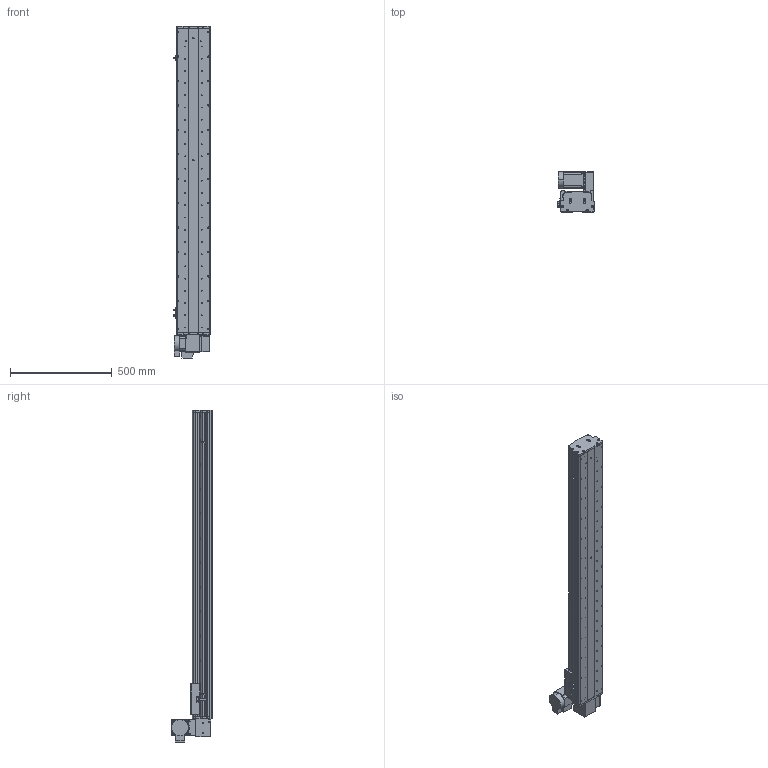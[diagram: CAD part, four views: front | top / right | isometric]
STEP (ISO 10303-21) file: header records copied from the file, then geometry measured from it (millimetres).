
FILE_DESCRIPTION (( 'STEP AP214' ), '1' );
FILE_NAME ('KSD165B-S1250-MRU-CM.STEP', '2017-10-17T02:44:55', ( '微软用户' ), ( '微软中国' ), 'SwSTEP 2.0', 'SolidWorks 2014', '' );
FILE_SCHEMA (( 'AUTOMOTIVE_DESIGN' ));
Length unit declared in the file: millimetre
Products named in the file (17): KSD165模组-同步带-防撞垫2; KSD165模组同步带-防撞垫1; KSD165耀郪-ヶ傷啣1-肮祭湍; KSD165模组-后端板1-同步带; KSD165模组-同步带滑动座-最新版; KSD165B-S1250-MRU-CM; 130宽模组马达安装板连板上下折丝杆同步带; 130宽模组保护罩上下左右折-同步带; HTPA26S5M250-A-H8 750W萇儂蚚; HTPA26S5M250-A-H8 400W萇儂蚚 ; KSD165模组-同步带防尘盖1-1250行程; KSD165模组同步带底板-1250行程; 拸秶雄ん750W侜督萇儂; 165宽马达安装板同步带右; U倰嫖萇假蚾璃; U倰嫖萇EEㄜSX672; 覜茼え68遵圉猾敕
Assembly tree (20 placements, depth 2):
  KSD165B-S1250-MRU-CM
    KSD165模组-同步带滑动座-最新版
    KSD165模组-后端板1-同步带
    KSD165耀郪-ヶ傷啣1-肮祭湍
    KSD165模组同步带-防撞垫1
    KSD165模组-同步带-防撞垫2
    覜茼え68遵圉猾敕
    U倰嫖萇EEㄜSX672  x3
    U倰嫖萇假蚾璃  x3
    165宽马达安装板同步带右
    拸秶雄ん750W侜督萇儂
    KSD165模组同步带底板-1250行程
    KSD165模组-同步带防尘盖1-1250行程
    HTPA26S5M250-A-H8 400W萇儂蚚 
    HTPA26S5M250-A-H8 750W萇儂蚚
    130宽模组保护罩上下左右折-同步带
    130宽模组马达安装板连板上下折丝杆同步带
Bounding box: 178.7 x 198 x 1630.5 mm (x, y, z)
Volume: 9045048.7 mm3; surface area: 2106262.5 mm2
Topology: 21 solids, 21 shells, 2011 faces, 5688 edges, 3716 vertices
Faces by surface type: cylinder 1307, plane 592, cone 112
Entity records: 65812 total; most frequent: CARTESIAN_POINT 13492, DIRECTION 10772, ORIENTED_EDGE 10036, EDGE_CURVE 5018, AXIS2_PLACEMENT_3D 4234, VERTEX_POINT 3308, CIRCLE 2420, LINE 2304
